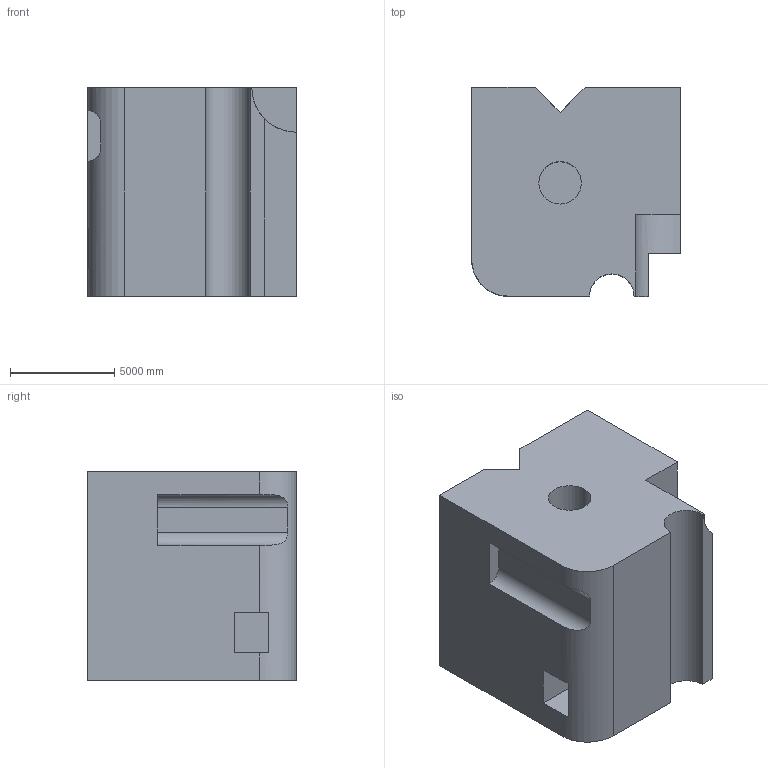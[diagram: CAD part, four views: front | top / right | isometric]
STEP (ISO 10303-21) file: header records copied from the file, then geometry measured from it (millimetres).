
FILE_DESCRIPTION (( 'STEP AP203' ), '1' );
FILE_NAME ('809.STEP', '2022-07-29T13:22:17', ( 'user' ), ( '' ), 'SwSTEP 2.0', 'SolidWorks 2021', '' );
FILE_SCHEMA (( 'CONFIG_CONTROL_DESIGN' ));
Length unit declared in the file: centimetre
Products named in the file (1): 809
Bounding box: 10000 x 10000 x 10000 mm (x, y, z)
Volume: 867133806313.6 mm3; surface area: 677150529 mm2
Topology: 1 solids, 1 shells, 33 faces, 90 edges, 60 vertices
Faces by surface type: plane 24, cylinder 9
Entity records: 1284 total; most frequent: CARTESIAN_POINT 352, ORIENTED_EDGE 180, DIRECTION 175, EDGE_CURVE 90, VECTOR 69, LINE 69, VERTEX_POINT 60, AXIS2_PLACEMENT_3D 53
